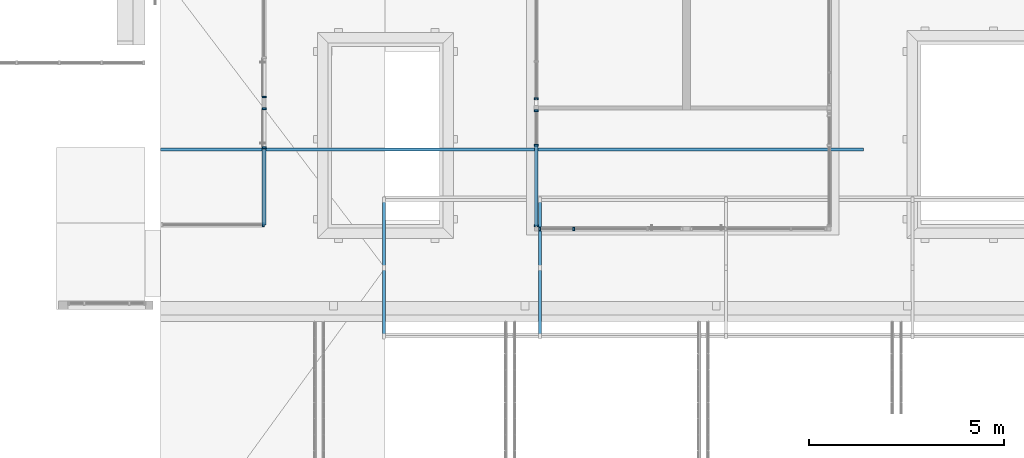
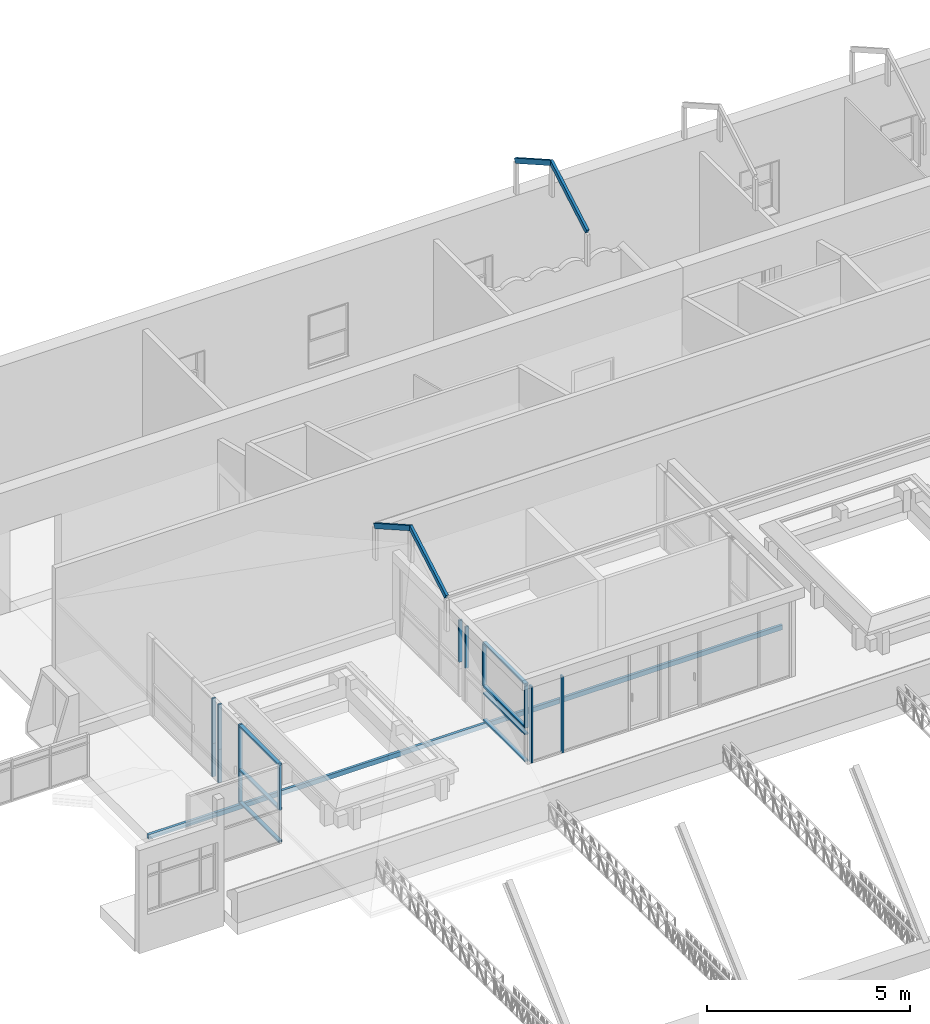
# One storey, part 3 of 153: 21 members, 5 beams, 8 elements without a shape of their own.
"""IFC4 building model written with IfcOpenShell, lengths in metres."""

from ifc_helpers import new_model, entity, si_unit, converted_unit, derived_unit, direction, frame, origin, place, context, subcontext, project, spatial, indexed_curve, outline, extrude, source, transform, mapped, material, type_object, type_shapes, element, aggregate, save


model = new_model("IFC4")

# Units and contexts
model_context = context("Model", 3, precision=1e-05, world=origin(), true_north=direction((6.123031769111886e-17, 1.0)))
body_context = subcontext(model_context, "Body", "Model", "MODEL_VIEW")
ifc_project = project(units=[si_unit("LENGTHUNIT", "METRE"), si_unit("AREAUNIT", "SQUARE_METRE"), si_unit("VOLUMEUNIT", "CUBIC_METRE"), converted_unit("PLANEANGLEUNIT", "DEGREE", entity("IfcRatioMeasure", 0.017453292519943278), si_unit("PLANEANGLEUNIT", "RADIAN"), dimensions=[0, 0, 0, 0, 0, 0, 0]), si_unit("MASSUNIT", "GRAM", prefix="KILO"), derived_unit("MASSDENSITYUNIT", [(si_unit("MASSUNIT", "GRAM", prefix="KILO"), 1), (si_unit("LENGTHUNIT", "METRE"), -3)]), derived_unit("MOMENTOFINERTIAUNIT", [(si_unit("LENGTHUNIT", "METRE"), 4)]), si_unit("TIMEUNIT", "SECOND"), si_unit("FREQUENCYUNIT", "HERTZ"), si_unit("THERMODYNAMICTEMPERATUREUNIT", "DEGREE_CELSIUS"), derived_unit("THERMALTRANSMITTANCEUNIT", [(si_unit("MASSUNIT", "GRAM", prefix="KILO"), 1), (si_unit("THERMODYNAMICTEMPERATUREUNIT", "KELVIN"), -1), (si_unit("TIMEUNIT", "SECOND"), -3)]), derived_unit("VOLUMETRICFLOWRATEUNIT", [(si_unit("LENGTHUNIT", "METRE"), 3), (si_unit("TIMEUNIT", "SECOND"), -1)]), derived_unit("MASSFLOWRATEUNIT", [(si_unit("MASSUNIT", "GRAM", prefix="KILO"), 1), (si_unit("TIMEUNIT", "SECOND"), -1)]), derived_unit("ROTATIONALFREQUENCYUNIT", [(si_unit("TIMEUNIT", "SECOND"), -1)]), si_unit("ELECTRICCURRENTUNIT", "AMPERE"), si_unit("ELECTRICVOLTAGEUNIT", "VOLT"), si_unit("POWERUNIT", "WATT"), si_unit("FORCEUNIT", "NEWTON", prefix="KILO"), si_unit("ILLUMINANCEUNIT", "LUX"), si_unit("LUMINOUSFLUXUNIT", "LUMEN"), si_unit("LUMINOUSINTENSITYUNIT", "CANDELA"), derived_unit("USERDEFINED", [(si_unit("MASSUNIT", "GRAM", prefix="KILO"), -1), (si_unit("LENGTHUNIT", "METRE"), -2), (si_unit("TIMEUNIT", "SECOND"), 3), (si_unit("LUMINOUSFLUXUNIT", "LUMEN"), 1)]), derived_unit("SOUNDPOWERUNIT", [(si_unit("MASSUNIT", "GRAM", prefix="KILO"), 1), (si_unit("LENGTHUNIT", "METRE"), 2), (si_unit("TIMEUNIT", "SECOND"), -3)]), derived_unit("SOUNDPRESSUREUNIT", [(si_unit("MASSUNIT", "GRAM", prefix="KILO"), 1), (si_unit("LENGTHUNIT", "METRE"), -1), (si_unit("TIMEUNIT", "SECOND"), -2)]), derived_unit("LINEARVELOCITYUNIT", [(si_unit("LENGTHUNIT", "METRE"), 1), (si_unit("TIMEUNIT", "SECOND"), -1)]), si_unit("PRESSUREUNIT", "PASCAL"), derived_unit("USERDEFINED", [(si_unit("LENGTHUNIT", "METRE"), -2), (si_unit("MASSUNIT", "GRAM", prefix="KILO"), 1), (si_unit("TIMEUNIT", "SECOND"), -2)]), derived_unit("LINEARFORCEUNIT", [(si_unit("MASSUNIT", "GRAM", prefix="KILO"), 1), (si_unit("LENGTHUNIT", "METRE"), 1), (si_unit("TIMEUNIT", "SECOND"), -2), (si_unit("LENGTHUNIT", "METRE"), -1)]), derived_unit("PLANARFORCEUNIT", [(si_unit("MASSUNIT", "GRAM", prefix="KILO"), 1), (si_unit("LENGTHUNIT", "METRE"), 1), (si_unit("TIMEUNIT", "SECOND"), -2), (si_unit("LENGTHUNIT", "METRE"), -2)])], contexts=[model_context])

# Site, building, storey
site_placement = place(None, origin())
site = spatial("IfcSite", under=ifc_project, at=site_placement, Name="Superficie", CompositionType="ELEMENT")
building_placement = place(site_placement, origin())
building = spatial("IfcBuilding", under=site, at=building_placement, CompositionType="ELEMENT")
storey_placement = place(building_placement, frame((0.0, 0.0, 3.5999999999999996)))
storey = spatial("IfcBuildingStorey", under=building, at=storey_placement, Name="Nivel 1", CompositionType="ELEMENT", Elevation=3.5999999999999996)

# Curtain wall, member
curtain_wall_type = type_object("IfcCurtainWallType", Name="Muro cortina:Muro cortina - simple", PredefinedType="NOTDEFINED")
curtain_wall_1_placement = place(storey_placement, frame((0.0, 0.0, -3.5999999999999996)))
curtain_wall_1 = element("IfcCurtainWall", 1, at=curtain_wall_1_placement, inside=storey, type_object=curtain_wall_type, Name="Muro cortina:Muro cortina - simple", ObjectType="Muro cortina:Muro cortina - simple", PredefinedType="NOTDEFINED")
ifc_material_1 = material(Name="<Unnamed>")
member_type_1 = type_object("IfcMemberType", Name="Montante rectangular:Montante rectangular - 5 x 10 cm", PredefinedType="MULLION", material=ifc_material_1)
shared_shape_1 = source(origin(), body_context, "Body", "SweptSolid", [
    extrude(outline(indexed_curve([(-0.05, -0.025), (0.05, -0.025), (0.05, 0.025), (-0.05, 0.025), (-0.05, -0.025)], self_intersect=False)), frame((0.0, 0.0, -1.2499999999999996), z_axis=(0.0, 0.0, 1.0), x_axis=(0.0, -1.0, 0.0)), (0.0, 0.0, 1.0), 1.2499999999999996),
])
type_shapes(member_type_1, [shared_shape_1])
member_1_placement = place(curtain_wall_1_placement, frame((-13.023200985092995, 2.366393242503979, 4.63), z_axis=(0.0, 0.0, -1.0), x_axis=(0.0, 1.0, 0.0)))
member_1 = element("IfcMember", 2, at=member_1_placement, type_object=member_type_1, material=ifc_material_1, Name="Montante rectangular:Montante rectangular - 5 x 10 cm", ObjectType="Montante rectangular:Montante rectangular - 5 x 10 cm", PredefinedType="MULLION", context=body_context, shape_type="MappedRepresentation", body=[
    mapped(shared_shape_1, transform((0.0, 0.0, 0.0), scale=1.0)),
])

# Curtain wall, members
curtain_wall_2_placement = place(storey_placement, frame((0.0, 0.0, -3.5999999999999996)))
curtain_wall_2 = element("IfcCurtainWall", 3, at=curtain_wall_2_placement, inside=storey, type_object=curtain_wall_type, Name="Muro cortina:Muro cortina - simple", ObjectType="Muro cortina:Muro cortina - simple", PredefinedType="NOTDEFINED")
member_type_2 = type_object("IfcMemberType", Name="Montante rectangular:Montante rectangular - 5 x 10 cm", PredefinedType="MULLION", material=ifc_material_1)
shared_shape_2 = source(origin(), body_context, "Body", "SweptSolid", [
    extrude(outline(indexed_curve([(-0.05, -0.025), (0.05, -0.025), (0.05, 0.025), (-0.05, 0.025), (-0.05, -0.025)], self_intersect=False)), frame((0.0, 0.0, -1.2499999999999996), z_axis=(0.0, 0.0, 1.0), x_axis=(0.0, -1.0, 0.0)), (0.0, 0.0, 1.0), 1.2499999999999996),
])
type_shapes(member_type_2, [shared_shape_2])
member_2_placement = place(curtain_wall_2_placement, frame((-13.023200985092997, 1.1863932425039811, 4.63), z_axis=(0.0, 0.0, -1.0), x_axis=(0.0, 1.0, 0.0)))
member_2 = element("IfcMember", 4, at=member_2_placement, type_object=member_type_2, material=ifc_material_1, Name="Montante rectangular:Montante rectangular - 5 x 10 cm", ObjectType="Montante rectangular:Montante rectangular - 5 x 10 cm", PredefinedType="MULLION", context=body_context, shape_type="MappedRepresentation", body=[
    mapped(shared_shape_2, transform((0.0, 0.0, 0.0), scale=1.0)),
])
member_type_3 = type_object("IfcMemberType", Name="Montante rectangular:Montante rectangular - 5 x 10 cm", PredefinedType="MULLION", material=ifc_material_1)
shared_shape_3 = source(origin(), body_context, "Body", "SweptSolid", [
    extrude(outline(indexed_curve([(-0.05, -0.025), (0.05, -0.025), (0.05, 0.025), (-0.05, 0.025), (-0.05, -0.025)], self_intersect=False)), frame((-0.025, 0.0, -1.2499999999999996), z_axis=(0.0, 0.0, 1.0), x_axis=(0.0, -1.0, 0.0)), (0.0, 0.0, 1.0), 1.2499999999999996),
])
type_shapes(member_type_3, [shared_shape_3])
member_3_placement = place(curtain_wall_2_placement, frame((-13.023200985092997, -0.9047671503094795, 5.879999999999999), z_axis=(0.0, 0.0, 1.0), x_axis=(0.0, -1.0, 0.0)))
member_3 = element("IfcMember", 5, at=member_3_placement, type_object=member_type_3, material=ifc_material_1, Name="Montante rectangular:Montante rectangular - 5 x 10 cm", ObjectType="Montante rectangular:Montante rectangular - 5 x 10 cm", PredefinedType="MULLION", context=body_context, shape_type="MappedRepresentation", body=[
    mapped(shared_shape_3, transform((0.0, 0.0, 0.0), scale=1.0)),
])

# Member
member_4_placement = place(curtain_wall_1_placement, frame((-13.023200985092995, 2.346393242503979, 5.879999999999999), z_axis=(0.0, 0.0, 1.0), x_axis=(0.0, -1.0, 0.0)))
member_4 = element("IfcMember", 6, at=member_4_placement, type_object=member_type_3, material=ifc_material_1, Name="Montante rectangular:Montante rectangular - 5 x 10 cm", ObjectType="Montante rectangular:Montante rectangular - 5 x 10 cm", PredefinedType="MULLION", context=body_context, shape_type="MappedRepresentation", body=[
    mapped(shared_shape_3, transform((0.0, 0.0, 0.0), scale=1.0)),
])

aggregate(curtain_wall_1, [member_4, member_1])

# Curtain wall, members
curtain_wall_3_placement = place(storey_placement, frame((0.0, 0.0, -3.5999999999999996)))
curtain_wall_3 = element("IfcCurtainWall", 7, at=curtain_wall_3_placement, inside=storey, type_object=curtain_wall_type, Name="Muro cortina:Muro cortina - simple", ObjectType="Muro cortina:Muro cortina - simple", PredefinedType="NOTDEFINED")
member_type_4 = type_object("IfcMemberType", Name="Montante rectangular:Montante rectangular - 5 x 10 cm", PredefinedType="MULLION", material=ifc_material_1)
shared_shape_4 = source(origin(), body_context, "Body", "SweptSolid", [
    extrude(outline(indexed_curve([(-0.05, -0.025), (0.05, -0.025), (0.05, 0.025), (-0.05, 0.025), (-0.05, -0.025)], self_intersect=False)), frame((-0.025, 0.0, -2.3000000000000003), z_axis=(0.0, 0.0, 1.0), x_axis=(0.0, -1.0, 0.0)), (0.0, 0.0, 1.0), 2.3000000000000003),
])
type_shapes(member_type_4, [shared_shape_4])
member_5_placement = place(curtain_wall_3_placement, frame((-12.963200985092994, -0.9636067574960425, 5.9), z_axis=(0.0, 0.0, 1.0), x_axis=(-1.0, 0.0, 0.0)))
member_5 = element("IfcMember", 8, at=member_5_placement, type_object=member_type_4, material=ifc_material_1, Name="Montante rectangular:Montante rectangular - 5 x 10 cm", ObjectType="Montante rectangular:Montante rectangular - 5 x 10 cm", PredefinedType="MULLION", context=body_context, shape_type="MappedRepresentation", body=[
    mapped(shared_shape_4, transform((0.0, 0.0, 0.0), scale=1.0)),
])
member_type_5 = type_object("IfcMemberType", Name="Montante rectangular:Montante rectangular - 5 x 10 cm", PredefinedType="MULLION", material=ifc_material_1)
shared_shape_5 = source(origin(), body_context, "Body", "SweptSolid", [
    extrude(outline(indexed_curve([(-0.05, -0.025), (0.05, -0.025), (0.05, 0.025), (-0.05, 0.025), (-0.05, -0.025)], self_intersect=False)), frame((0.0, 0.0, -2.3000000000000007), z_axis=(0.0, 0.0, 1.0), x_axis=(0.0, -1.0, 0.0)), (0.0, 0.0, 1.0), 2.3000000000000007),
])
type_shapes(member_type_5, [shared_shape_5])
member_6_placement = place(curtain_wall_3_placement, frame((-12.063200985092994, -0.9636067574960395, 3.5999999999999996), z_axis=(0.0, 0.0, -1.0), x_axis=(1.0, 0.0, 0.0)))
member_6 = element("IfcMember", 9, at=member_6_placement, type_object=member_type_5, material=ifc_material_1, Name="Montante rectangular:Montante rectangular - 5 x 10 cm", ObjectType="Montante rectangular:Montante rectangular - 5 x 10 cm", PredefinedType="MULLION", context=body_context, shape_type="MappedRepresentation", body=[
    mapped(shared_shape_5, transform((0.0, 0.0, 0.0), scale=1.0)),
])
aggregate(curtain_wall_3, [member_5, member_6])

# Member
member_type_6 = type_object("IfcMemberType", Name="Montante rectangular:Montante rectangular - 5 x 10 cm", PredefinedType="MULLION", material=ifc_material_1)
shared_shape_6 = source(origin(), body_context, "Body", "SweptSolid", [
    extrude(outline(indexed_curve([(-0.05, -0.025), (0.05, -0.025), (0.05, 0.025), (-0.05, 0.025), (-0.05, -0.025)], self_intersect=False)), frame((-0.025, 0.0, -1.2499999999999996), z_axis=(0.0, 0.0, 1.0), x_axis=(0.0, -1.0, 0.0)), (0.0, 0.0, 1.0), 1.2499999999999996),
])
type_shapes(member_type_6, [shared_shape_6])
member_7_placement = place(curtain_wall_2_placement, frame((-13.023200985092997, 2.086393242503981, 4.63), z_axis=(0.0, 0.0, -1.0), x_axis=(0.0, 1.0, 0.0)))
member_7 = element("IfcMember", 10, at=member_7_placement, type_object=member_type_6, material=ifc_material_1, Name="Montante rectangular:Montante rectangular - 5 x 10 cm", ObjectType="Montante rectangular:Montante rectangular - 5 x 10 cm", PredefinedType="MULLION", context=body_context, shape_type="MappedRepresentation", body=[
    mapped(shared_shape_6, transform((0.0, 0.0, 0.0), scale=1.0)),
])

member_type_7 = type_object("IfcMemberType", Name="Montante rectangular:Montante rectangular - 5 x 10 cm", PredefinedType="MULLION", material=ifc_material_1)
shared_shape_7 = source(origin(), body_context, "Body", "SweptSolid", [
    extrude(outline(indexed_curve([(-0.05, -0.025), (0.05, -0.025), (0.05, 0.025), (-0.05, 0.025), (-0.05, -0.025)], self_intersect=False)), frame((0.0, 0.0, -2.0461603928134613), z_axis=(0.0, 0.0, 1.0), x_axis=(0.0, -1.0, 0.0)), (0.0, 0.0, 1.0), 2.0461603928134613),
])
type_shapes(member_type_7, [shared_shape_7])
member_8_placement = place(curtain_wall_2_placement, frame((-13.023200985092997, 1.161393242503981, 4.63), z_axis=(0.0, 1.0, 0.0), x_axis=(0.0, 0.0, 1.0)))
member_8 = element("IfcMember", 11, at=member_8_placement, type_object=member_type_7, material=ifc_material_1, Name="Montante rectangular:Montante rectangular - 5 x 10 cm", ObjectType="Montante rectangular:Montante rectangular - 5 x 10 cm", PredefinedType="MULLION", context=body_context, shape_type="MappedRepresentation", body=[
    mapped(shared_shape_7, transform((0.0, 0.0, 0.0), scale=1.0)),
])

member_9_placement = place(curtain_wall_2_placement, frame((-13.023200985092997, 1.161393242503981, 4.43), z_axis=(0.0, 1.0, 0.0), x_axis=(0.0, 0.0, 1.0)))
member_9 = element("IfcMember", 12, at=member_9_placement, type_object=member_type_7, material=ifc_material_1, Name="Montante rectangular:Montante rectangular - 5 x 10 cm", ObjectType="Montante rectangular:Montante rectangular - 5 x 10 cm", PredefinedType="MULLION", context=body_context, shape_type="MappedRepresentation", body=[
    mapped(shared_shape_7, transform((0.0, 0.0, 0.0), scale=1.0)),
])

member_10_placement = place(curtain_wall_2_placement, frame((-13.023200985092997, 1.1613932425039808, 3.619999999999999), z_axis=(0.0, 1.0, 0.0), x_axis=(0.0, 0.0, 1.0)))
member_10 = element("IfcMember", 13, at=member_10_placement, type_object=member_type_7, material=ifc_material_1, Name="Montante rectangular:Montante rectangular - 5 x 10 cm", ObjectType="Montante rectangular:Montante rectangular - 5 x 10 cm", PredefinedType="MULLION", context=body_context, shape_type="MappedRepresentation", body=[
    mapped(shared_shape_7, transform((0.0, 0.0, 0.0), scale=1.0)),
])

member_type_8 = type_object("IfcMemberType", Name="Montante rectangular:Montante rectangular - 5 x 10 cm", PredefinedType="MULLION", material=ifc_material_1)
shared_shape_8 = source(origin(), body_context, "Body", "SweptSolid", [
    extrude(outline(indexed_curve([(-0.05, -0.025), (0.05, -0.025), (0.05, 0.025), (-0.05, 0.025), (-0.05, -0.025)], self_intersect=False)), frame((-0.025, 0.0, -2.0711603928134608), z_axis=(0.0, 0.0, 1.0), x_axis=(0.0, -1.0, 0.0)), (0.0, 0.0, 1.0), 2.0711603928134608),
])
type_shapes(member_type_8, [shared_shape_8])
member_11_placement = place(curtain_wall_2_placement, frame((-13.023200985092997, 1.186393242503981, 5.949999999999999), z_axis=(0.0, 1.0, 0.0), x_axis=(0.0, 0.0, 1.0)))
member_11 = element("IfcMember", 14, at=member_11_placement, type_object=member_type_8, material=ifc_material_1, Name="Montante rectangular:Montante rectangular - 5 x 10 cm", ObjectType="Montante rectangular:Montante rectangular - 5 x 10 cm", PredefinedType="MULLION", context=body_context, shape_type="MappedRepresentation", body=[
    mapped(shared_shape_8, transform((0.0, 0.0, 0.0), scale=1.0)),
])

aggregate(curtain_wall_2, [member_8, member_9, member_10, member_3, member_11, member_7, member_2])

# Curtain wall, member
curtain_wall_4_placement = place(storey_placement, frame((0.0, 0.0, -3.5999999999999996)))
curtain_wall_4 = element("IfcCurtainWall", 15, at=curtain_wall_4_placement, inside=storey, type_object=curtain_wall_type, Name="Muro cortina:Muro cortina - simple", ObjectType="Muro cortina:Muro cortina - simple", PredefinedType="NOTDEFINED")
member_type_9 = type_object("IfcMemberType", Name="Montante rectangular:Montante rectangular - 5 x 10 cm", PredefinedType="MULLION", material=ifc_material_1)
shared_shape_9 = source(origin(), body_context, "Body", "SweptSolid", [
    extrude(outline(indexed_curve([(-0.05, -0.025), (0.05, -0.025), (0.05, 0.025), (-0.05, 0.025), (-0.05, -0.025)], self_intersect=False)), frame((0.0, 0.0, -1.35), z_axis=(0.0, 0.0, 1.0), x_axis=(0.0, -1.0, 0.0)), (0.0, 0.0, 1.0), 1.35),
])
type_shapes(member_type_9, [shared_shape_9])
member_12_placement = place(curtain_wall_4_placement, frame((-19.993200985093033, 2.417083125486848, 4.6), z_axis=(0.0, 0.0, -1.0), x_axis=(0.0, -1.0, 0.0)))
member_12 = element("IfcMember", 16, at=member_12_placement, type_object=member_type_9, material=ifc_material_1, Name="Montante rectangular:Montante rectangular - 5 x 10 cm", ObjectType="Montante rectangular:Montante rectangular - 5 x 10 cm", PredefinedType="MULLION", context=body_context, shape_type="MappedRepresentation", body=[
    mapped(shared_shape_9, transform((0.0, 0.0, 0.0), scale=1.0)),
])

curtain_wall_5_placement = place(storey_placement, frame((0.0, 0.0, -3.5999999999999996)))
curtain_wall_5 = element("IfcCurtainWall", 17, at=curtain_wall_5_placement, inside=storey, type_object=curtain_wall_type, Name="Muro cortina:Muro cortina - simple", ObjectType="Muro cortina:Muro cortina - simple", PredefinedType="NOTDEFINED")
member_13_placement = place(curtain_wall_5_placement, frame((-19.993200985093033, 2.117083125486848, 4.6), z_axis=(0.0, 0.0, -1.0), x_axis=(0.0, -1.0, 0.0)))
member_13 = element("IfcMember", 18, at=member_13_placement, type_object=member_type_9, material=ifc_material_1, Name="Montante rectangular:Montante rectangular - 5 x 10 cm", ObjectType="Montante rectangular:Montante rectangular - 5 x 10 cm", PredefinedType="MULLION", context=body_context, shape_type="MappedRepresentation", body=[
    mapped(shared_shape_9, transform((0.0, 0.0, 0.0), scale=1.0)),
])

# Member
member_type_10 = type_object("IfcMemberType", Name="Montante rectangular:Montante rectangular - 5 x 10 cm", PredefinedType="MULLION", material=ifc_material_1)
shared_shape_10 = source(origin(), body_context, "Body", "SweptSolid", [
    extrude(outline(indexed_curve([(-0.05, -0.025), (0.05, -0.025), (0.05, 0.025), (-0.05, 0.025), (-0.05, -0.025)], self_intersect=False)), frame((0.0, 0.0, -1.0), z_axis=(0.0, 0.0, 1.0), x_axis=(0.0, -1.0, 0.0)), (0.0, 0.0, 1.0), 1.0),
])
type_shapes(member_type_10, [shared_shape_10])
member_14_placement = place(curtain_wall_4_placement, frame((-19.993200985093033, 2.417083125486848, 3.5999999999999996), z_axis=(0.0, 0.0, -1.0), x_axis=(0.0, -1.0, 0.0)))
member_14 = element("IfcMember", 19, at=member_14_placement, type_object=member_type_10, material=ifc_material_1, Name="Montante rectangular:Montante rectangular - 5 x 10 cm", ObjectType="Montante rectangular:Montante rectangular - 5 x 10 cm", PredefinedType="MULLION", context=body_context, shape_type="MappedRepresentation", body=[
    mapped(shared_shape_10, transform((0.0, 0.0, 0.0), scale=1.0)),
])

aggregate(curtain_wall_4, [member_12, member_14])

member_15_placement = place(curtain_wall_5_placement, frame((-19.993200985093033, 2.117083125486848, 3.5999999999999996), z_axis=(0.0, 0.0, -1.0), x_axis=(0.0, -1.0, 0.0)))
member_15 = element("IfcMember", 20, at=member_15_placement, type_object=member_type_10, material=ifc_material_1, Name="Montante rectangular:Montante rectangular - 5 x 10 cm", ObjectType="Montante rectangular:Montante rectangular - 5 x 10 cm", PredefinedType="MULLION", context=body_context, shape_type="MappedRepresentation", body=[
    mapped(shared_shape_10, transform((0.0, 0.0, 0.0), scale=1.0)),
])

member_type_11 = type_object("IfcMemberType", Name="Montante rectangular:Montante rectangular - 5 x 10 cm", PredefinedType="MULLION", material=ifc_material_1)
shared_shape_11 = source(origin(), body_context, "Body", "SweptSolid", [
    extrude(outline(indexed_curve([(-0.05, -0.025), (0.05, -0.025), (0.05, 0.025), (-0.05, 0.025), (-0.05, -0.025)], self_intersect=False)), frame((0.0, 0.0, -1.35), z_axis=(0.0, 0.0, 1.0), x_axis=(0.0, -1.0, 0.0)), (0.0, 0.0, 1.0), 1.35),
])
type_shapes(member_type_11, [shared_shape_11])
member_16_placement = place(curtain_wall_5_placement, frame((-19.993200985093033, 1.1170831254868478, 4.6), z_axis=(0.0, 0.0, -1.0), x_axis=(0.0, -1.0, 0.0)))
member_16 = element("IfcMember", 21, at=member_16_placement, type_object=member_type_11, material=ifc_material_1, Name="Montante rectangular:Montante rectangular - 5 x 10 cm", ObjectType="Montante rectangular:Montante rectangular - 5 x 10 cm", PredefinedType="MULLION", context=body_context, shape_type="MappedRepresentation", body=[
    mapped(shared_shape_11, transform((0.0, 0.0, 0.0), scale=1.0)),
])

member_type_12 = type_object("IfcMemberType", Name="Montante rectangular:Montante rectangular - 5 x 10 cm", PredefinedType="MULLION", material=ifc_material_1)
shared_shape_12 = source(origin(), body_context, "Body", "SweptSolid", [
    extrude(outline(indexed_curve([(-0.05, -0.025), (0.05, -0.025), (0.05, 0.025), (-0.05, 0.025), (-0.05, -0.025)], self_intersect=False)), frame((0.0, 0.0, -1.0), z_axis=(0.0, 0.0, 1.0), x_axis=(0.0, -1.0, 0.0)), (0.0, 0.0, 1.0), 1.0),
])
type_shapes(member_type_12, [shared_shape_12])
member_17_placement = place(curtain_wall_5_placement, frame((-19.993200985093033, 1.1170831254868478, 3.5999999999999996), z_axis=(0.0, 0.0, -1.0), x_axis=(0.0, -1.0, 0.0)))
member_17 = element("IfcMember", 22, at=member_17_placement, type_object=member_type_12, material=ifc_material_1, Name="Montante rectangular:Montante rectangular - 5 x 10 cm", ObjectType="Montante rectangular:Montante rectangular - 5 x 10 cm", PredefinedType="MULLION", context=body_context, shape_type="MappedRepresentation", body=[
    mapped(shared_shape_12, transform((0.0, 0.0, 0.0), scale=1.0)),
])

# Curtain wall, member
curtain_wall_6_placement = place(storey_placement, frame((0.0, 0.0, -3.5999999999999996)))
curtain_wall_6 = element("IfcCurtainWall", 23, at=curtain_wall_6_placement, inside=storey, type_object=curtain_wall_type, Name="Muro cortina:Muro cortina - simple", ObjectType="Muro cortina:Muro cortina - simple", PredefinedType="NOTDEFINED")
member_type_13 = type_object("IfcMemberType", Name="Montante rectangular:Montante rectangular - 5 x 10 cm", PredefinedType="MULLION", material=ifc_material_1)
shared_shape_13 = source(origin(), body_context, "Body", "SweptSolid", [
    extrude(outline(indexed_curve([(-0.05, -0.025), (0.05, -0.025), (0.05, 0.025), (-0.05, 0.025), (-0.05, -0.025)], self_intersect=False)), frame((-0.025, 0.0, -1.35), z_axis=(0.0, 0.0, 1.0), x_axis=(0.0, -1.0, 0.0)), (0.0, 0.0, 1.0), 1.35),
])
type_shapes(member_type_13, [shared_shape_13])
member_18_placement = place(curtain_wall_6_placement, frame((-19.993200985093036, -0.8590623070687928, 4.6), z_axis=(0.0, 0.0, -1.0), x_axis=(1.0, 0.0, 0.0)))
member_18 = element("IfcMember", 24, at=member_18_placement, type_object=member_type_13, material=ifc_material_1, Name="Montante rectangular:Montante rectangular - 5 x 10 cm", ObjectType="Montante rectangular:Montante rectangular - 5 x 10 cm", PredefinedType="MULLION", context=body_context, shape_type="MappedRepresentation", body=[
    mapped(shared_shape_13, transform((0.0, 0.0, 0.0), scale=1.0)),
])
aggregate(curtain_wall_6, [member_18])

# Member
member_type_14 = type_object("IfcMemberType", Name="Montante rectangular:Montante rectangular - 5 x 10 cm", PredefinedType="MULLION", material=ifc_material_1)
shared_shape_14 = source(origin(), body_context, "Body", "SweptSolid", [
    extrude(outline(indexed_curve([(-0.05, -0.025), (0.05, -0.025), (0.05, 0.025), (-0.05, 0.025), (-0.05, -0.025)], self_intersect=False)), frame((-0.025, 0.0, -1.9511454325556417), z_axis=(0.0, 0.0, 1.0), x_axis=(0.0, -1.0, 0.0)), (0.0, 0.0, 1.0), 1.9511454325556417),
])
type_shapes(member_type_14, [shared_shape_14])
member_19_placement = place(curtain_wall_5_placement, frame((-19.993200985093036, -0.8590623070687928, 5.949999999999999), z_axis=(0.0, -1.0, 0.0), x_axis=(0.0, 0.0, 1.0)))
member_19 = element("IfcMember", 25, at=member_19_placement, type_object=member_type_14, material=ifc_material_1, Name="Montante rectangular:Montante rectangular - 5 x 10 cm", ObjectType="Montante rectangular:Montante rectangular - 5 x 10 cm", PredefinedType="MULLION", context=body_context, shape_type="MappedRepresentation", body=[
    mapped(shared_shape_14, transform((0.0, 0.0, 0.0), scale=1.0)),
])

member_type_15 = type_object("IfcMemberType", Name="Montante rectangular:Montante rectangular - 5 x 10 cm", PredefinedType="MULLION", material=ifc_material_1)
shared_shape_15 = source(origin(), body_context, "Body", "SweptSolid", [
    extrude(outline(indexed_curve([(-0.05, -0.025), (0.05, -0.025), (0.05, 0.025), (-0.05, 0.025), (-0.05, -0.025)], self_intersect=False)), frame((-0.025, 0.0, -1.951145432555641), z_axis=(0.0, 0.0, 1.0), x_axis=(0.0, -1.0, 0.0)), (0.0, 0.0, 1.0), 1.951145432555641),
])
type_shapes(member_type_15, [shared_shape_15])
member_20_placement = place(curtain_wall_5_placement, frame((-19.993200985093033, 1.092083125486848, 3.5999999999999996), z_axis=(0.0, 1.0, 0.0), x_axis=(0.0, 0.0, -1.0)))
member_20 = element("IfcMember", 26, at=member_20_placement, type_object=member_type_15, material=ifc_material_1, Name="Montante rectangular:Montante rectangular - 5 x 10 cm", ObjectType="Montante rectangular:Montante rectangular - 5 x 10 cm", PredefinedType="MULLION", context=body_context, shape_type="MappedRepresentation", body=[
    mapped(shared_shape_15, transform((0.0, 0.0, 0.0), scale=1.0)),
])

member_type_16 = type_object("IfcMemberType", Name="Montante rectangular:Montante rectangular - 5 x 10 cm", PredefinedType="MULLION", material=ifc_material_1)
shared_shape_16 = source(origin(), body_context, "Body", "SweptSolid", [
    extrude(outline(indexed_curve([(-0.05, -0.025), (0.05, -0.025), (0.05, 0.025), (-0.05, 0.025), (-0.05, -0.025)], self_intersect=False)), frame((0.0, 0.0, -1.951145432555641), z_axis=(0.0, 0.0, 1.0), x_axis=(0.0, -1.0, 0.0)), (0.0, 0.0, 1.0), 1.951145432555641),
])
type_shapes(member_type_16, [shared_shape_16])
member_21_placement = place(curtain_wall_5_placement, frame((-19.993200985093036, -0.8590623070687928, 4.6), z_axis=(0.0, -1.0, 0.0), x_axis=(0.0, 0.0, 1.0)))
member_21 = element("IfcMember", 27, at=member_21_placement, type_object=member_type_16, material=ifc_material_1, Name="Montante rectangular:Montante rectangular - 5 x 10 cm", ObjectType="Montante rectangular:Montante rectangular - 5 x 10 cm", PredefinedType="MULLION", context=body_context, shape_type="MappedRepresentation", body=[
    mapped(shared_shape_16, transform((0.0, 0.0, 0.0), scale=1.0)),
])

aggregate(curtain_wall_5, [member_19, member_20, member_21, member_13, member_15, member_16, member_17])

# Assembly, beams
assembly_1_placement = place(storey_placement, origin())
assembly_1 = element("IfcElementAssembly", 28, at=assembly_1_placement, inside=storey, Name="Cercha superior:Cercha superior", ObjectType="Cercha superior:Cercha superior", AssemblyPlace="NOTDEFINED", PredefinedType="TRUSS")
ifc_material_2 = material(Name="Madera - Madera de construcción", Category="Madera")
beam_type_1 = type_object("IfcBeamType", Name="Glulam-Pino del sur:76X140", PredefinedType="BEAM", material=ifc_material_2)
shared_shape_17 = source(origin(), body_context, "Body", "SweptSolid", [
    extrude(outline(indexed_curve([(-0.9661116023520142, -0.07000000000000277), (1.0061114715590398, -0.07000000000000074), (1.0061114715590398, 0.06999999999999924), (-1.046111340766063, 0.06999999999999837), (-0.9661116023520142, -0.07000000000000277)], self_intersect=False)), frame((-16.961200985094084, -1.083786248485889, 12.134452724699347), z_axis=(1.0, 0.0, 0.0), x_axis=(0.0, 0.8695829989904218, -0.49378680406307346)), (0.0, 0.0, 1.0), 0.07600000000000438),
])
type_shapes(beam_type_1, [shared_shape_17])
beam_1_placement = place(assembly_1_placement, frame((0.0, 0.0, -3.5999999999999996)))
beam_1 = element("IfcBeam", 29, at=beam_1_placement, type_object=beam_type_1, material=ifc_material_2, Name="Glulam-Pino del sur:76X140", ObjectType="Glulam-Pino del sur:76X140", PredefinedType="BEAM", context=body_context, shape_type="MappedRepresentation", body=[
    mapped(shared_shape_17, transform((0.0, 0.0, 0.0), scale=1.0)),
])
beam_type_2 = type_object("IfcBeamType", Name="Glulam-Pino del sur:76X140", PredefinedType="BEAM", material=ifc_material_2)
shared_shape_18 = source(origin(), body_context, "Body", "SweptSolid", [
    extrude(outline(indexed_curve([(-1.0091695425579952, -0.07000000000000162), (0.969169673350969, -0.07000000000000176), (1.0491694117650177, 0.06999999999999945), (-1.0091695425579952, 0.0699999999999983), (-1.0091695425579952, -0.07000000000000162)], self_intersect=False)), frame((-16.961200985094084, -2.8335310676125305, 12.128201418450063), z_axis=(1.0, 0.0, 0.0), x_axis=(0.0, 0.866898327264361, 0.49848499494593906)), (0.0, 0.0, 1.0), 0.07600000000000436),
])
type_shapes(beam_type_2, [shared_shape_18])
beam_2_placement = place(assembly_1_placement, frame((0.0, 0.0, -3.5999999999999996)))
beam_2 = element("IfcBeam", 30, at=beam_2_placement, type_object=beam_type_2, material=ifc_material_2, Name="Glulam-Pino del sur:76X140", ObjectType="Glulam-Pino del sur:76X140", PredefinedType="BEAM", context=body_context, shape_type="MappedRepresentation", body=[
    mapped(shared_shape_18, transform((0.0, 0.0, 0.0), scale=1.0)),
])
aggregate(assembly_1, [beam_1, beam_2])

assembly_2_placement = place(storey_placement, origin())
assembly_2 = element("IfcElementAssembly", 31, at=assembly_2_placement, inside=storey, Name="Cercha superior:Cercha superior", ObjectType="Cercha superior:Cercha superior", AssemblyPlace="NOTDEFINED", PredefinedType="TRUSS")
beam_type_3 = type_object("IfcBeamType", Name="Glulam-Pino del sur:76X140", PredefinedType="BEAM", material=ifc_material_2)
shared_shape_19 = source(origin(), body_context, "Body", "SweptSolid", [
    extrude(outline(indexed_curve([(-0.9661116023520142, -0.07000000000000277), (1.0061114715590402, -0.07000000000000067), (1.0061114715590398, 0.06999999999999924), (-1.046111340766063, 0.06999999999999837), (-0.9661116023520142, -0.07000000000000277)], self_intersect=False)), frame((-12.966073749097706, -1.0837862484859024, 12.134452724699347), z_axis=(1.0, 0.0, 0.0), x_axis=(0.0, 0.8695829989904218, -0.49378680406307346)), (0.0, 0.0, 1.0), 0.07600000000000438),
])
type_shapes(beam_type_3, [shared_shape_19])
beam_3_placement = place(building_placement, frame((0.0, 0.0, 9.562421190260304)))
beam_3 = element("IfcBeam", 32, at=beam_3_placement, type_object=beam_type_3, material=ifc_material_2, Name="Glulam-Pino del sur:76X140", ObjectType="Glulam-Pino del sur:76X140", PredefinedType="BEAM", context=body_context, shape_type="MappedRepresentation", body=[
    mapped(shared_shape_19, transform((0.0, 0.0, 0.0), scale=1.0)),
])
beam_type_4 = type_object("IfcBeamType", Name="Glulam-Pino del sur:76X140", PredefinedType="BEAM", material=ifc_material_2)
shared_shape_20 = source(origin(), body_context, "Body", "SweptSolid", [
    extrude(outline(indexed_curve([(-1.009169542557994, -0.07000000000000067), (0.96916967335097, -0.06999999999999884), (1.0491694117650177, 0.0700000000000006), (-1.009169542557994, 0.06999999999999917), (-1.009169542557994, -0.07000000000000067)], self_intersect=False)), frame((-12.966073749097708, -2.8335310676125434, 12.128201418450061), z_axis=(1.0, 0.0, 0.0), x_axis=(0.0, 0.866898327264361, 0.4984849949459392)), (0.0, 0.0, 1.0), 0.07600000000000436),
])
type_shapes(beam_type_4, [shared_shape_20])
beam_4_placement = place(building_placement, frame((0.0, 0.0, 9.562421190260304)))
beam_4 = element("IfcBeam", 33, at=beam_4_placement, type_object=beam_type_4, material=ifc_material_2, Name="Glulam-Pino del sur:76X140", ObjectType="Glulam-Pino del sur:76X140", PredefinedType="BEAM", context=body_context, shape_type="MappedRepresentation", body=[
    mapped(shared_shape_20, transform((0.0, 0.0, 0.0), scale=1.0)),
])
aggregate(assembly_2, [beam_3, beam_4])

# Beam
beam_type_5 = type_object("IfcBeamType", Name="Glulam-Pino del sur:76X140", PredefinedType="BEAM", material=ifc_material_2)
shared_shape_21 = source(origin(), body_context, "Body", "SweptSolid", [
    extrude(outline(indexed_curve([(-0.06999999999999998, -0.03800000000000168), (0.06999999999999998, -0.03800000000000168), (0.06999999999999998, 0.03800000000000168), (-0.06999999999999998, 0.03800000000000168), (-0.06999999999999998, -0.03800000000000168)], self_intersect=False)), frame((-9.0, 0.0, 0.0), z_axis=(1.0, 0.0, 0.0), x_axis=(0.0, 0.0, -1.0)), (0.0, 0.0, 1.0), 18.0),
])
type_shapes(beam_type_5, [shared_shape_21])
beam_5_placement = place(storey_placement, frame((-13.643200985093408, 1.0708292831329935, -0.06999999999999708)))
element("IfcBeam", 34, at=beam_5_placement, inside=storey, type_object=beam_type_5, material=ifc_material_2, Name="Glulam-Pino del sur:76X140", ObjectType="Glulam-Pino del sur:76X140", PredefinedType="BEAM", context=body_context, shape_type="MappedRepresentation", body=[
    mapped(shared_shape_21, transform((0.0, 0.0, 0.0), scale=1.0)),
])

save(model, "model.ifc")
